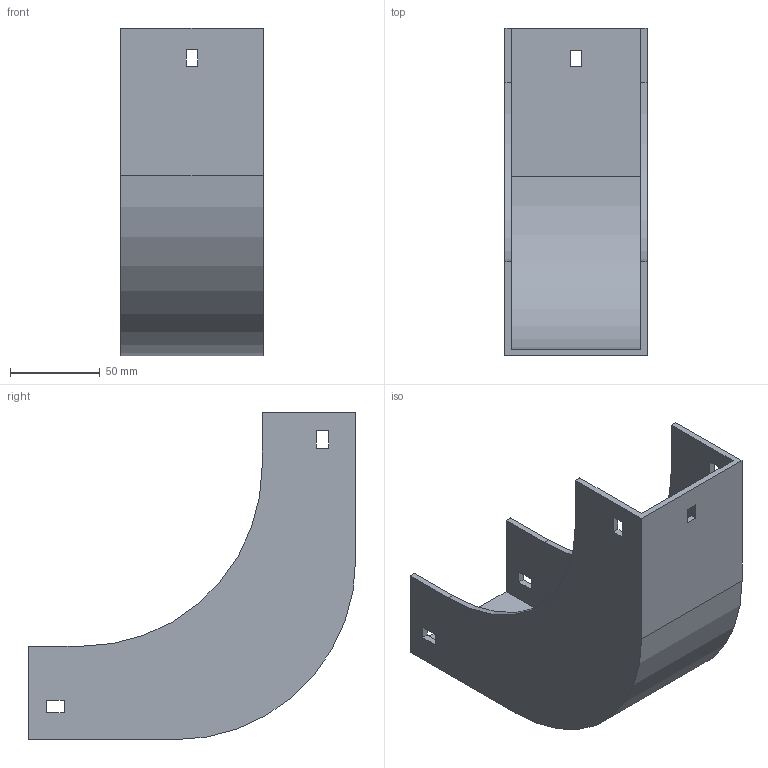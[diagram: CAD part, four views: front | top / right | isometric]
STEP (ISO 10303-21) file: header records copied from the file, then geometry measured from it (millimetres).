
FILE_DESCRIPTION (( 'STEP AP214' ), '1' );
FILE_NAME ('30F1B075.step', '2025-02-21T13:01:29', ( '' ), ( '' ), 'SwSTEP 2.0', 'SolidWorks 2023', '' );
FILE_SCHEMA (( 'AUTOMOTIVE_DESIGN' ));
Length unit declared in the file: millimetre
Products named in the file (1): 30F1B075
Bounding box: 79 x 182 x 182 mm (x, y, z)
Volume: 192397.8 mm3; surface area: 113405.4 mm2
Topology: 1 solids, 1 shells, 42 faces, 120 edges, 80 vertices
Faces by surface type: plane 38, cylinder 4
Entity records: 1399 total; most frequent: CARTESIAN_POINT 243, ORIENTED_EDGE 240, DIRECTION 214, EDGE_CURVE 120, LINE 112, VECTOR 112, VERTEX_POINT 80, EDGE_LOOP 54
